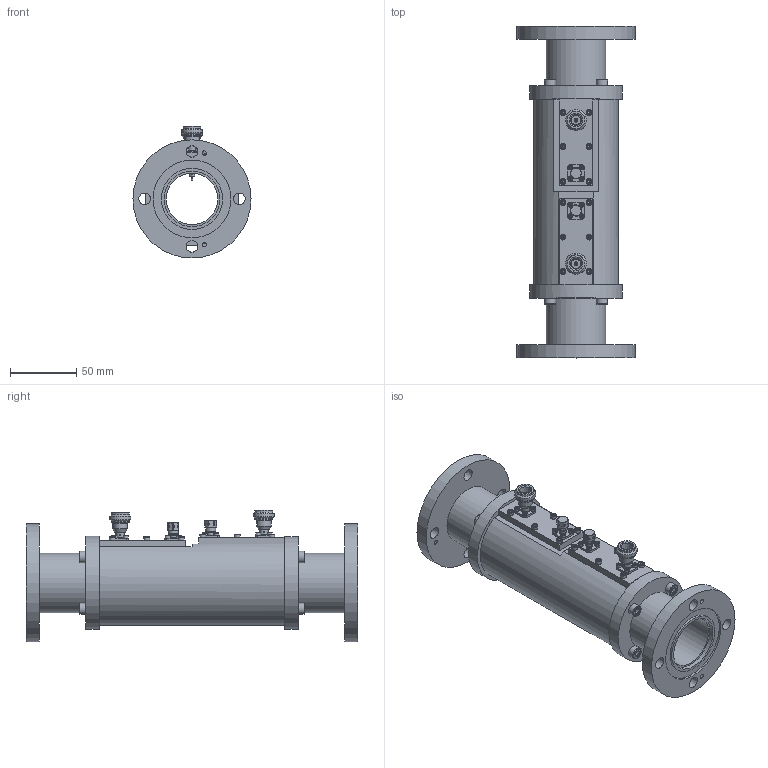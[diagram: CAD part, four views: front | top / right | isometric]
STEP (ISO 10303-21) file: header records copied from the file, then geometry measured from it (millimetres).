
FILE_DESCRIPTION(/* description */ ('Unknown'),/* implementation_level */ '2;1');
FILE_NAME(/* name */ 'DETI_MICROWAVE_HIGH_POWER_DUAL_DIRECTIONAL_COUPLER_800072_STEP',/* time_stamp */ '2021-06-11T15:06:25+02:00',/* author */ ('ALG'),/* organization */ ('DETI'),/* preprocessor_version */ 'ST-DEVELOPER v16.7',/* originating_system */ 'Solid Edge',/* authorisation */ 'Unknown');
FILE_SCHEMA (('AUTOMOTIVE_DESIGN {1 0 10303 214 3 1 1}'));
Length unit declared in the file: millimetre
Products named in the file (1): 800072 0A 1601A_step_vider
Bounding box: 89 x 250 x 99.42 mm (x, y, z)
Volume: 465947.7 mm3; surface area: 120091.6 mm2
Topology: 1 solids, 85 shells, 1276 faces, 3035 edges, 1980 vertices
Faces by surface type: plane 528, cone 338, cylinder 306, torus 104
Full cylindrical faces by diameter (mm): 0.93 x2, 0.95 x2, 1 x4, 1.275 x4, 1.567 x16, 2 x16, 2.013 x12, 2.5 x12, 2.6 x8, 2.7 x12, 2.9 x8, 3.28 x4, 3.8 x16, 4.06 x6, 4.1 x4, 4.134 x8, 4.5 x12, 4.56 x2, 4.61 x2, 4.9 x2, 5 x8, 5.35 x2, 5.4 x8, 6.26 x4, 6.3 x2, 6.425 x2, 6.6 x2, 7 x2, 7.7 x2, 8.5 x8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
Entity records: 41095 total; most frequent: CARTESIAN_POINT 6529, DIRECTION 5356, ORIENTED_EDGE 4434, AXIS2_PLACEMENT_3D 2290, EDGE_CURVE 2217, FACE_BOUND 2030, EDGE_LOOP 1972, VERTEX_POINT 1747
